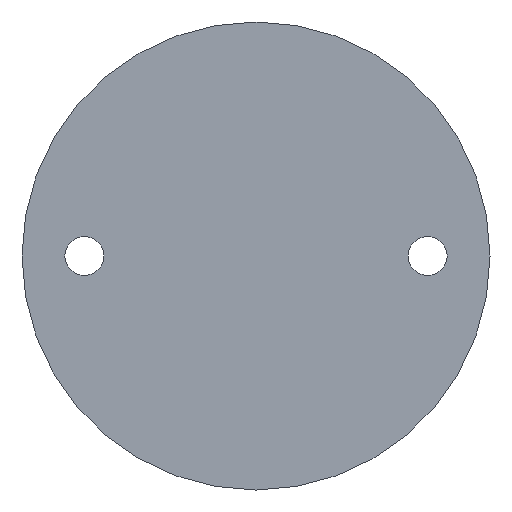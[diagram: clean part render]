
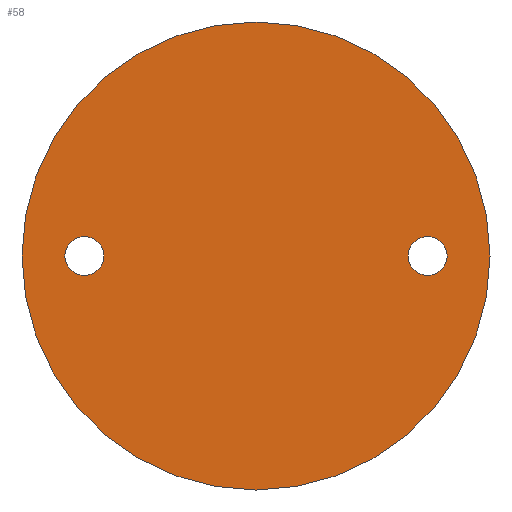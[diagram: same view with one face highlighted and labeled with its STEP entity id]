
A CAD part, front view. The second image highlights one B-rep face of the part: STEP entity #58.
In plain terms, the highlighted planar face has unit normal (0, -1, 0).
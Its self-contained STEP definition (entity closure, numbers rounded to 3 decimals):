
#58=ADVANCED_FACE('',(#77,#78,#79),#80,.T.);
#77=FACE_BOUND('',#98,.T.);
#78=FACE_BOUND('',#99,.T.);
#79=FACE_OUTER_BOUND('',#100,.T.);
#80=PLANE('',#101);
#98=EDGE_LOOP('',(#154,#155));
#99=EDGE_LOOP('',(#156,#157));
#100=EDGE_LOOP('',(#158,#159));
#101=AXIS2_PLACEMENT_3D('',#160,#161,#162);
#154=ORIENTED_EDGE('',*,*,#175,.T.);
#155=ORIENTED_EDGE('',*,*,#176,.T.);
#156=ORIENTED_EDGE('',*,*,#171,.T.);
#157=ORIENTED_EDGE('',*,*,#178,.T.);
#158=ORIENTED_EDGE('',*,*,#180,.F.);
#159=ORIENTED_EDGE('',*,*,#167,.F.);
#160=CARTESIAN_POINT('',(0.0,-30.725,19.275));
#161=DIRECTION('',(0.0,-1.0,0.));
#162=DIRECTION('',(1.0,0.0,0.0));
#167=EDGE_CURVE('',#187,#183,#189,.T.);
#171=EDGE_CURVE('',#191,#195,#197,.T.);
#175=EDGE_CURVE('',#199,#203,#205,.T.);
#176=EDGE_CURVE('',#203,#199,#206,.T.);
#178=EDGE_CURVE('',#195,#191,#208,.T.);
#180=EDGE_CURVE('',#183,#187,#210,.T.);
#183=VERTEX_POINT('',#213);
#187=VERTEX_POINT('',#218);
#189=CIRCLE('',#221,15.0);
#191=VERTEX_POINT('',#223);
#195=VERTEX_POINT('',#228);
#197=CIRCLE('',#231,1.25);
#199=VERTEX_POINT('',#233);
#203=VERTEX_POINT('',#238);
#205=CIRCLE('',#241,1.25);
#206=CIRCLE('',#242,1.25);
#208=CIRCLE('',#244,1.25);
#210=CIRCLE('',#246,15.0);
#213=CARTESIAN_POINT('',(15.0,-30.725,19.275));
#218=CARTESIAN_POINT('',(-15.0,-30.725,19.275));
#221=AXIS2_PLACEMENT_3D('',#253,#254,#255);
#223=CARTESIAN_POINT('',(-9.75,-30.725,19.275));
#228=CARTESIAN_POINT('',(-12.25,-30.725,19.275));
#231=AXIS2_PLACEMENT_3D('',#261,#262,#263);
#233=CARTESIAN_POINT('',(12.25,-30.725,19.275));
#238=CARTESIAN_POINT('',(9.75,-30.725,19.275));
#241=AXIS2_PLACEMENT_3D('',#269,#270,#271);
#242=AXIS2_PLACEMENT_3D('',#272,#273,#274);
#244=AXIS2_PLACEMENT_3D('',#278,#279,#280);
#246=AXIS2_PLACEMENT_3D('',#284,#285,#286);
#253=CARTESIAN_POINT('',(0.0,-30.725,19.275));
#254=DIRECTION('',(0.0,1.0,0.));
#255=DIRECTION('',(1.0,0.0,0.0));
#261=CARTESIAN_POINT('',(-11.0,-30.725,19.275));
#262=DIRECTION('',(0.0,1.0,0.));
#263=DIRECTION('',(1.0,0.0,0.0));
#269=CARTESIAN_POINT('',(11.0,-30.725,19.275));
#270=DIRECTION('',(0.0,1.0,0.));
#271=DIRECTION('',(1.0,0.0,0.0));
#272=CARTESIAN_POINT('',(11.0,-30.725,19.275));
#273=DIRECTION('',(0.0,1.0,0.));
#274=DIRECTION('',(1.0,0.0,0.0));
#278=CARTESIAN_POINT('',(-11.0,-30.725,19.275));
#279=DIRECTION('',(0.0,1.0,0.));
#280=DIRECTION('',(1.0,0.0,0.0));
#284=CARTESIAN_POINT('',(0.0,-30.725,19.275));
#285=DIRECTION('',(0.0,1.0,0.));
#286=DIRECTION('',(1.0,0.0,0.0));
